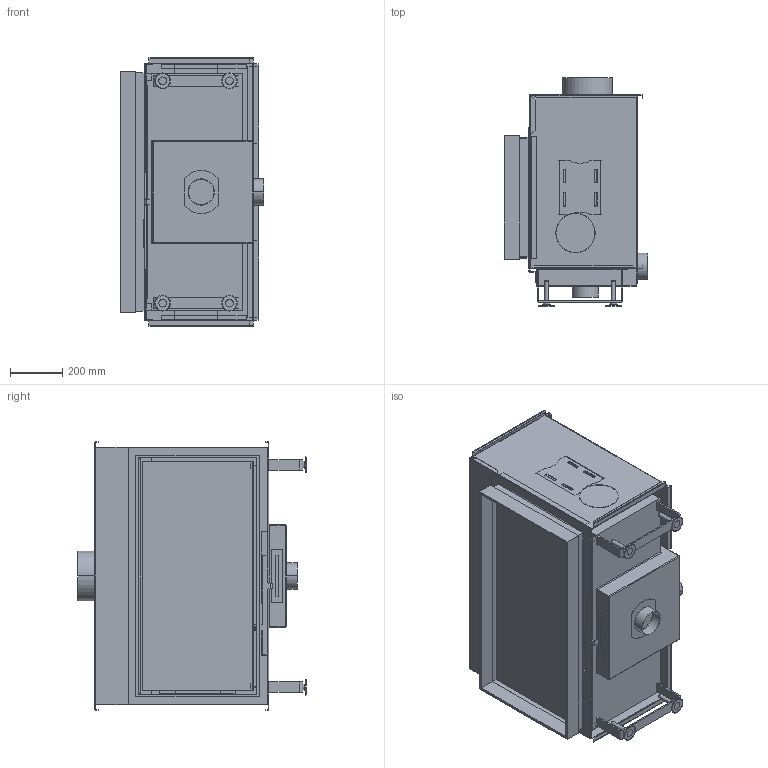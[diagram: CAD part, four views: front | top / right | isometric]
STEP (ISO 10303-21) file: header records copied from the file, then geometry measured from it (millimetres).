
FILE_DESCRIPTION(('Creo Elements/Direct Modeling STEP Export'),'2;1');
FILE_NAME('metalfire_CITIZEN 900-45 WHE 1S.stp','2020-02-12T10:36:20',(''),(''),'PTC Creo Elements/Direct Modeling STEP processor for AP214 (Solid Model)','PTC Creo Elements/Direct Modeling 19.0B 21-Mar-2015 (C) Parametric Technology GmbH','');
FILE_SCHEMA(('AUTOMOTIVE_DESIGN { 1 0 10303 214 1 1 1 1 }'));
Length unit declared in the file: millimetre
Products named in the file (8): Galva_Cover; CITIZEN_MF_900-45_WHE_1S_RECHTS_Chassis; Door; Standard_frame; CTZ_900-45_1S; FinishingFrame; Options; CITIZEN_MF_900-45_WHE_1S_RECHTS
Assembly tree (7 placements, depth 3):
  CITIZEN_MF_900-45_WHE_1S_RECHTS
    Options
      FinishingFrame
    CTZ_900-45_1S
      Standard_frame
      Door
      CITIZEN_MF_900-45_WHE_1S_RECHTS_Chassis
      Galva_Cover
Bounding box: 548 x 871 x 1023 mm (x, y, z)
Volume: 109386395.3 mm3; surface area: 10348543.2 mm2
Topology: 5 solids, 11 shells, 1294 faces, 3670 edges, 2400 vertices
Faces by surface type: plane 855, cylinder 347, cone 56, bspline 30, sphere 4, torus 2
Entity records: 47960 total; most frequent: CARTESIAN_POINT 14102, ORIENTED_EDGE 7328, DIRECTION 6513, EDGE_CURVE 3664, VECTOR 2693, LINE 2693, VERTEX_POINT 2400, AXIS2_PLACEMENT_3D 1910
